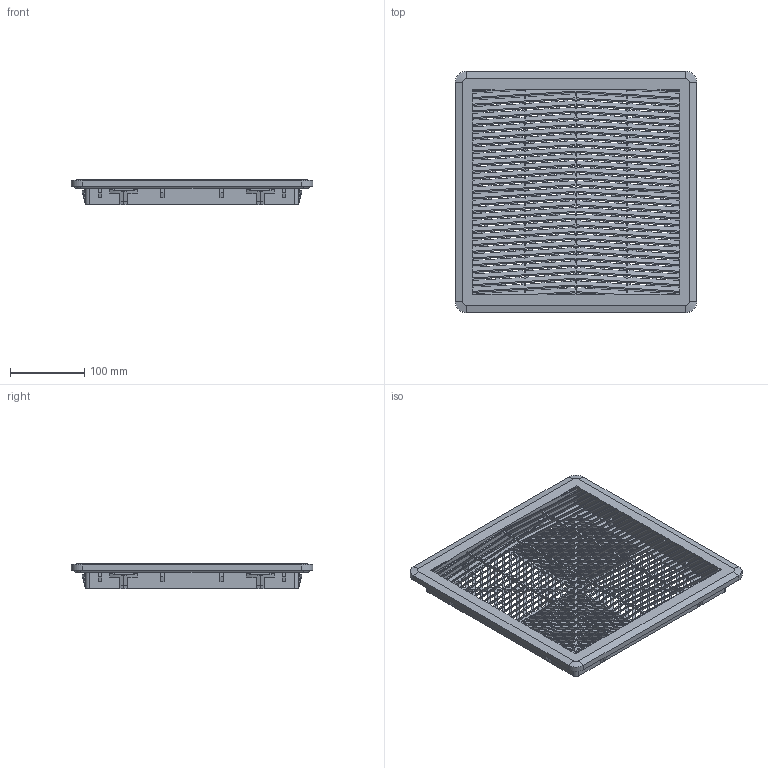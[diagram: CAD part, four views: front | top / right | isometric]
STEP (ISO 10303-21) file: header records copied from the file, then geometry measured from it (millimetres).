
FILE_DESCRIPTION (( 'STEP AP214' ), '1' );
FILE_NAME ('FF 20 Ðåøåòêà ñ ôèëüòðîì.STEP', '2018-08-23T12:26:03', ( '' ), ( '' ), 'SwSTEP 2.0', 'SolidWorks 2012', '' );
FILE_SCHEMA (( 'AUTOMOTIVE_DESIGN' ));
Length unit declared in the file: millimetre
Products named in the file (3): Çàùåëêà; Ðåøåòêà FF 20 áåç çàùåëîê; FF 20 Ðåøåòêà ñ ôèëüòðîì
Assembly tree (9 placements, depth 2):
  FF 20 Ðåøåòêà ñ ôèëüòðîì
    Ðåøåòêà FF 20 áåç çàùåëîê
    Çàùåëêà  x8
Bounding box: 325 x 325 x 34 mm (x, y, z)
Volume: 576008.4 mm3; surface area: 457380.5 mm2
Topology: 9 solids, 9 shells, 1478 faces, 4559 edges, 3002 vertices
Faces by surface type: plane 1376, cylinder 94, cone 4, torus 4
Entity records: 47658 total; most frequent: ORIENTED_EDGE 8488, CARTESIAN_POINT 8462, DIRECTION 7101, EDGE_CURVE 4244, LINE 4093, VECTOR 4093, VERTEX_POINT 2799, EDGE_LOOP 1805
